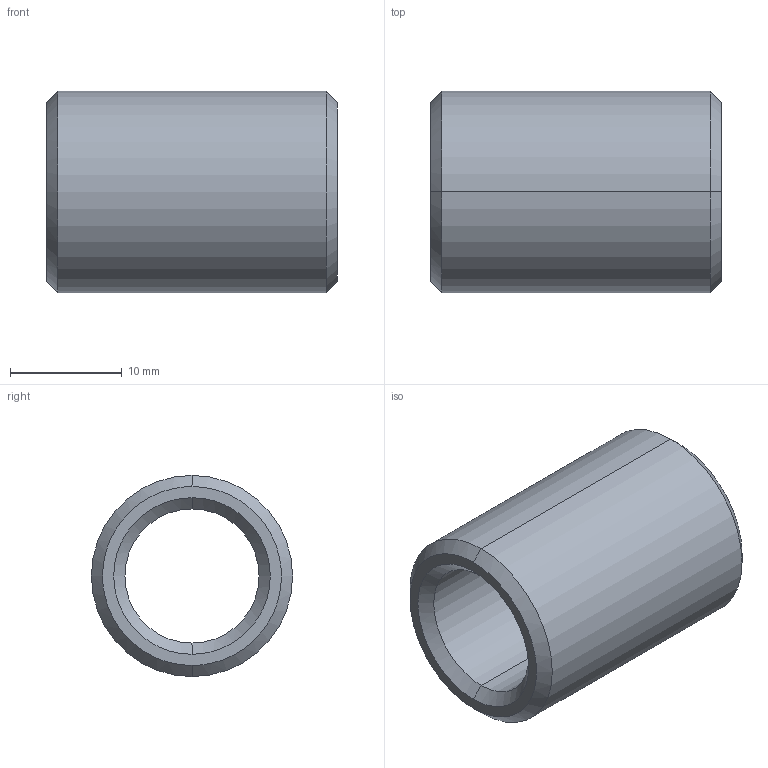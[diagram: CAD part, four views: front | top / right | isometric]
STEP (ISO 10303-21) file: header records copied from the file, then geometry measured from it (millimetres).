
FILE_DESCRIPTION(('CATIA V5 STEP Exchange'),'2;1');
FILE_NAME('C:\Users\Utente\Desktop\IO LAVORO\3D X SITO CF\X SITO\PLASTICA\352\352-12X26.stp','2021-04-10T09:25:06+00:00',('none'),('none'),'CATIA Version 5 Release 20 GA (IN-10)','CATIA V5 STEP AP203','none');
FILE_SCHEMA(('CONFIG_CONTROL_DESIGN'));
Length unit declared in the file: millimetre
Products named in the file (1): 352-12X26
Bounding box: 26 x 18 x 18 mm (x, y, z)
Volume: 3592.9 mm3; surface area: 2627.8 mm2
Topology: 1 solids, 1 shells, 14 faces, 44 edges, 32 vertices
Faces by surface type: cone 6, cylinder 4, plane 2, torus 2
Entity records: 634 total; most frequent: CARTESIAN_POINT 203, ORIENTED_EDGE 88, DIRECTION 64, EDGE_CURVE 44, AXIS2_PLACEMENT_3D 41, VERTEX_POINT 32, CIRCLE 26, EDGE_LOOP 16
